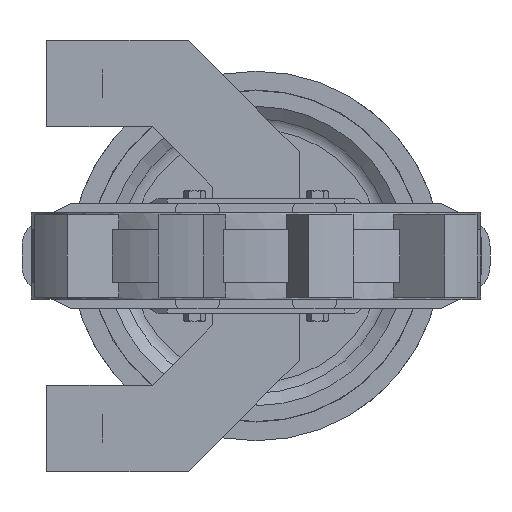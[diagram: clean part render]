
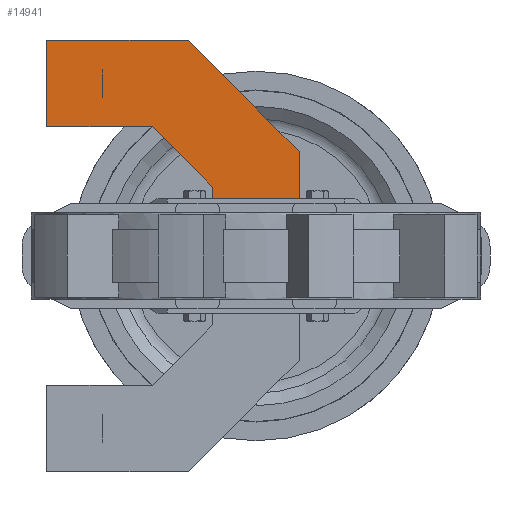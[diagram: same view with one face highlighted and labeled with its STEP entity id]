
A CAD part, front view. The second image highlights one B-rep face of the part: STEP entity #14941.
In plain terms, the highlighted planar face has unit normal (0, -1, 0).
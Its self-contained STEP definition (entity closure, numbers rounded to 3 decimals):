
#220 = EDGE_CURVE ( 'NONE', #221, #234, #40870, .T. ) ;
#221 = VERTEX_POINT ( 'NONE', #40866 ) ;
#234 = VERTEX_POINT ( 'NONE', #40908 ) ;
#9823 = DIRECTION ( 'NONE',  ( 0., 0., 1. ) ) ;
#9824 = DIRECTION ( 'NONE',  ( 0., 1., 0. ) ) ;
#9826 = CARTESIAN_POINT ( 'NONE',  ( 21., 723.5, 0. ) ) ;
#9827 = AXIS2_PLACEMENT_3D ( 'NONE', #9826, #9824, #9823 ) ;
#9828 = FACE_OUTER_BOUND ( 'NONE', #15003, .T. ) ;
#9833 = PLANE ( 'NONE',  #9827 ) ;
#9923 = DIRECTION ( 'NONE',  ( 0., 0., 1. ) ) ;
#9924 = VECTOR ( 'NONE', #9923, 1000. ) ;
#9925 = CARTESIAN_POINT ( 'NONE',  ( -35., 723.5, -56. ) ) ;
#9926 = LINE ( 'NONE', #9925, #9924 ) ;
#9927 = CARTESIAN_POINT ( 'NONE',  ( -35., 723.5, 56. ) ) ;
#9928 = DIRECTION ( 'NONE',  ( -0.707, 0., 0.707 ) ) ;
#9929 = VECTOR ( 'NONE', #9928, 1000. ) ;
#9930 = CARTESIAN_POINT ( 'NONE',  ( -84., 723.5, 105. ) ) ;
#9931 = LINE ( 'NONE', #9930, #9929 ) ;
#9933 = CARTESIAN_POINT ( 'NONE',  ( -84., 723.5, 105. ) ) ;
#9934 = DIRECTION ( 'NONE',  ( -1., 0., 0. ) ) ;
#9935 = VECTOR ( 'NONE', #9934, 1000. ) ;
#9936 = CARTESIAN_POINT ( 'NONE',  ( -84., 723.5, 105. ) ) ;
#9937 = LINE ( 'NONE', #9936, #9935 ) ;
#9958 = CARTESIAN_POINT ( 'NONE',  ( -170., 723.5, 105. ) ) ;
#9959 = DIRECTION ( 'NONE',  ( 0., 0., 1. ) ) ;
#9960 = VECTOR ( 'NONE', #9959, 1000. ) ;
#9961 = CARTESIAN_POINT ( 'NONE',  ( -170., 723.5, 105. ) ) ;
#9962 = LINE ( 'NONE', #9961, #9960 ) ;
#9963 = CARTESIAN_POINT ( 'NONE',  ( -170., 723.5, 175. ) ) ;
#9964 = DIRECTION ( 'NONE',  ( 1., 0., 0. ) ) ;
#9965 = VECTOR ( 'NONE', #9964, 1000. ) ;
#9966 = CARTESIAN_POINT ( 'NONE',  ( -170., 723.5, 175. ) ) ;
#9967 = LINE ( 'NONE', #9966, #9965 ) ;
#9968 = CARTESIAN_POINT ( 'NONE',  ( -55., 723.5, 175. ) ) ;
#9969 = DIRECTION ( 'NONE',  ( 0.707, 0., -0.707 ) ) ;
#9970 = VECTOR ( 'NONE', #9969, 1000. ) ;
#9971 = CARTESIAN_POINT ( 'NONE',  ( -55., 723.5, 175. ) ) ;
#9972 = LINE ( 'NONE', #9971, #9970 ) ;
#9973 = CARTESIAN_POINT ( 'NONE',  ( 35., 723.5, 85. ) ) ;
#9974 = DIRECTION ( 'NONE',  ( 0., 0., -1. ) ) ;
#9975 = VECTOR ( 'NONE', #9974, 1000. ) ;
#9976 = CARTESIAN_POINT ( 'NONE',  ( 35., 723.5, -85. ) ) ;
#9977 = LINE ( 'NONE', #9976, #9975 ) ;
#14941 = ADVANCED_FACE ( 'NONE', ( #9828 ), #9833, .F. ) ;
#14989 = ORIENTED_EDGE ( 'NONE', *, *, #14990, .F. ) ;
#14990 = EDGE_CURVE ( 'NONE', #14991, #15016, #9937, .T. ) ;
#14991 = VERTEX_POINT ( 'NONE', #9933 ) ;
#14992 = ORIENTED_EDGE ( 'NONE', *, *, #14993, .F. ) ;
#14993 = EDGE_CURVE ( 'NONE', #14994, #14991, #9931, .T. ) ;
#14994 = VERTEX_POINT ( 'NONE', #9927 ) ;
#14995 = ORIENTED_EDGE ( 'NONE', *, *, #14996, .F. ) ;
#14996 = EDGE_CURVE ( 'NONE', #234, #14994, #9926, .T. ) ;
#15003 = EDGE_LOOP ( 'NONE', ( #15004, #15005, #15008, #15011, #15014, #14989, #14992, #14995 ) ) ;
#15004 = ORIENTED_EDGE ( 'NONE', *, *, #220, .F. ) ;
#15005 = ORIENTED_EDGE ( 'NONE', *, *, #15006, .F. ) ;
#15006 = EDGE_CURVE ( 'NONE', #15007, #221, #9977, .T. ) ;
#15007 = VERTEX_POINT ( 'NONE', #9973 ) ;
#15008 = ORIENTED_EDGE ( 'NONE', *, *, #15009, .F. ) ;
#15009 = EDGE_CURVE ( 'NONE', #15010, #15007, #9972, .T. ) ;
#15010 = VERTEX_POINT ( 'NONE', #9968 ) ;
#15011 = ORIENTED_EDGE ( 'NONE', *, *, #15012, .F. ) ;
#15012 = EDGE_CURVE ( 'NONE', #15013, #15010, #9967, .T. ) ;
#15013 = VERTEX_POINT ( 'NONE', #9963 ) ;
#15014 = ORIENTED_EDGE ( 'NONE', *, *, #15015, .F. ) ;
#15015 = EDGE_CURVE ( 'NONE', #15016, #15013, #9962, .T. ) ;
#15016 = VERTEX_POINT ( 'NONE', #9958 ) ;
#40866 = CARTESIAN_POINT ( 'NONE',  ( 35., 723.5, 46.5 ) ) ;
#40867 = DIRECTION ( 'NONE',  ( -1., 0., 0. ) ) ;
#40868 = VECTOR ( 'NONE', #40867, 1000. ) ;
#40869 = CARTESIAN_POINT ( 'NONE',  ( -86.25, 723.5, 46.5 ) ) ;
#40870 = LINE ( 'NONE', #40869, #40868 ) ;
#40908 = CARTESIAN_POINT ( 'NONE',  ( -35., 723.5, 46.5 ) ) ;
